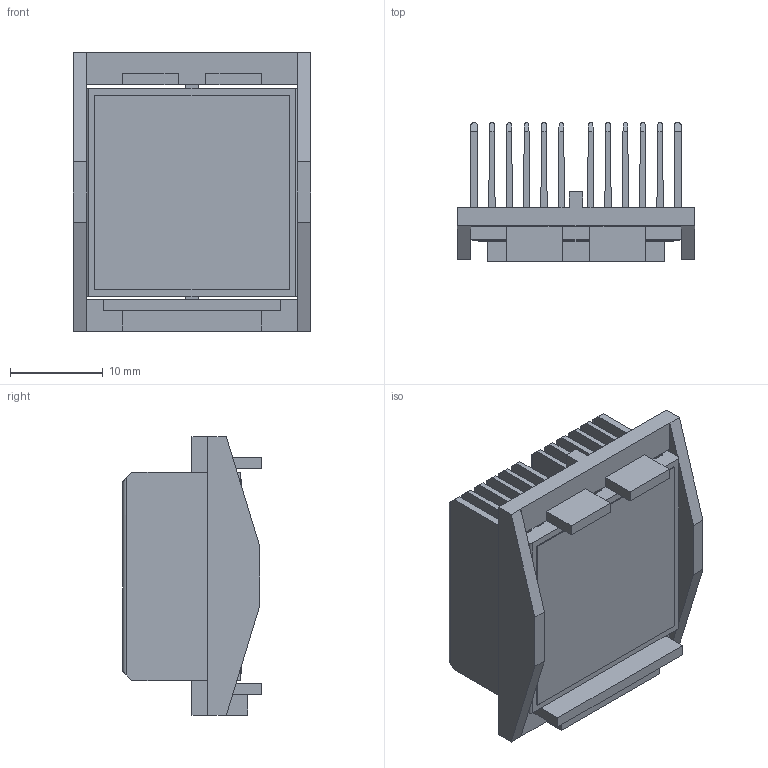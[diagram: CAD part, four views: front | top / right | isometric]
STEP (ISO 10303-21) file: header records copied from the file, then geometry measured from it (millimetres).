
FILE_DESCRIPTION (( 'STEP AP214' ), '1' );
FILE_NAME ('INL23001-13-1.7Y.STEP', '2023-02-21T17:23:00', ( '' ), ( '' ), 'SwSTEP 2.0', 'SolidWorks 2020', '' );
FILE_SCHEMA (( 'AUTOMOTIVE_DESIGN' ));
Length unit declared in the file: millimetre
Products named in the file (1): INL23001-13-1.7Y
Bounding box: 25.7 x 15 x 30.1 mm (x, y, z)
Volume: 3803.4 mm3; surface area: 9612.2 mm2
Topology: 3 solids, 3 shells, 152 faces, 440 edges, 292 vertices
Faces by surface type: plane 116, cylinder 36
Entity records: 6668 total; most frequent: CARTESIAN_POINT 957, ORIENTED_EDGE 880, DIRECTION 770, EDGE_CURVE 440, LINE 368, VECTOR 368, VERTEX_POINT 292, AXIS2_PLACEMENT_3D 201
